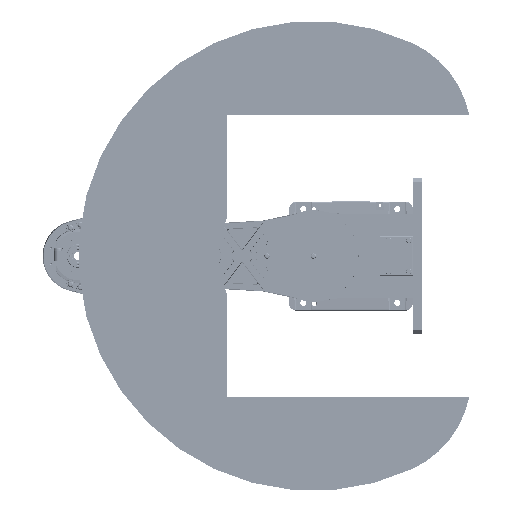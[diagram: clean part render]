
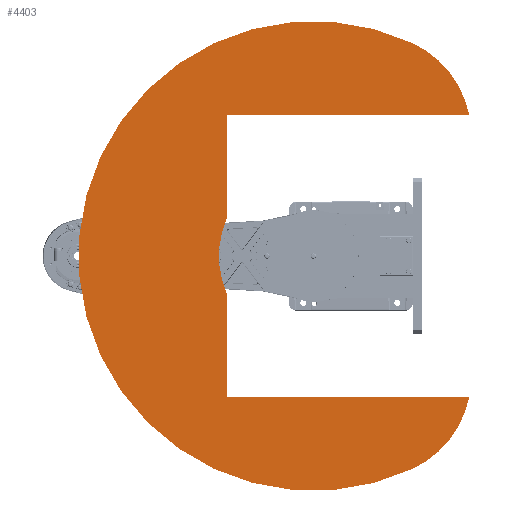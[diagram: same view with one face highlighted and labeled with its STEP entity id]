
A CAD part, front view. The second image highlights one B-rep face of the part: STEP entity #4403.
In plain terms, the highlighted planar face has unit normal (0, -1, 0).
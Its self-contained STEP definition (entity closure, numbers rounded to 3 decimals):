
#4403 = ADVANCED_FACE( '', ( #12453 ), #12454, .F. );
#12453 = FACE_OUTER_BOUND( '', #25730, .T. );
#12454 = PLANE( '', #25731 );
#25730 = EDGE_LOOP( '', ( #41317, #41318, #41319, #41320, #41321, #41322, #41323, #41324 ) );
#25731 = AXIS2_PLACEMENT_3D( '', #41325, #41326, #41327 );
#41317 = ORIENTED_EDGE( '', *, *, #73389, .T. );
#41318 = ORIENTED_EDGE( '', *, *, #73390, .F. );
#41319 = ORIENTED_EDGE( '', *, *, #73391, .F. );
#41320 = ORIENTED_EDGE( '', *, *, #73392, .F. );
#41321 = ORIENTED_EDGE( '', *, *, #73393, .T. );
#41322 = ORIENTED_EDGE( '', *, *, #73394, .T. );
#41323 = ORIENTED_EDGE( '', *, *, #73395, .T. );
#41324 = ORIENTED_EDGE( '', *, *, #73396, .T. );
#41325 = CARTESIAN_POINT( '', ( 77.036, 0., 35.923 ) );
#41326 = DIRECTION( '', ( 0., 1., 0. ) );
#41327 = DIRECTION( '', ( 0., 0., 1. ) );
#73389 = EDGE_CURVE( '', #86528, #86529, #86530, .T. );
#73390 = EDGE_CURVE( '', #86531, #86529, #86532, .T. );
#73391 = EDGE_CURVE( '', #86533, #86531, #86534, .T. );
#73392 = EDGE_CURVE( '', #86535, #86533, #86536, .T. );
#73393 = EDGE_CURVE( '', #86535, #86537, #86538, .T. );
#73394 = EDGE_CURVE( '', #86537, #86539, #86540, .T. );
#73395 = EDGE_CURVE( '', #86539, #86541, #86542, .T. );
#73396 = EDGE_CURVE( '', #86541, #86528, #86543, .T. );
#86528 = VERTEX_POINT( '', #106107 );
#86529 = VERTEX_POINT( '', #106108 );
#86530 = LINE( '', #106109, #106110 );
#86531 = VERTEX_POINT( '', #106111 );
#86532 = CIRCLE( '', #106112, 130. );
#86533 = VERTEX_POINT( '', #106113 );
#86534 = CIRCLE( '', #106114, 300. );
#86535 = VERTEX_POINT( '', #106115 );
#86536 = CIRCLE( '', #106116, 130. );
#86537 = VERTEX_POINT( '', #106117 );
#86538 = LINE( '', #106118, #106119 );
#86539 = VERTEX_POINT( '', #106120 );
#86540 = LINE( '', #106121, #106122 );
#86541 = VERTEX_POINT( '', #106123 );
#86542 = CIRCLE( '', #106124, 120.61 );
#86543 = LINE( '', #106125, #106126 );
#106107 = CARTESIAN_POINT( '', ( -180., 0., -110. ) );
#106108 = CARTESIAN_POINT( '', ( -180., 0., 199.233 ) );
#106109 = CARTESIAN_POINT( '', ( -180., 0., -110. ) );
#106110 = VECTOR( '', #136327, 1000. );
#106111 = CARTESIAN_POINT( '', ( -271.892, 0., 126.785 ) );
#106112 = AXIS2_PLACEMENT_3D( '', #136328, #136329, #136330 );
#106113 = CARTESIAN_POINT( '', ( 271.892, 0., 126.785 ) );
#106114 = AXIS2_PLACEMENT_3D( '', #136331, #136332, #136333 );
#106115 = CARTESIAN_POINT( '', ( 180., 0., 199.233 ) );
#106116 = AXIS2_PLACEMENT_3D( '', #136334, #136335, #136336 );
#106117 = CARTESIAN_POINT( '', ( 180., 0., -110. ) );
#106118 = CARTESIAN_POINT( '', ( 180., 0., 290. ) );
#106119 = VECTOR( '', #136337, 1000. );
#106120 = CARTESIAN_POINT( '', ( 49.465, 0., -110. ) );
#106121 = CARTESIAN_POINT( '', ( 180., 0., -110. ) );
#106122 = VECTOR( '', #136338, 1000. );
#106123 = CARTESIAN_POINT( '', ( -49.465, 0., -110. ) );
#106124 = AXIS2_PLACEMENT_3D( '', #136339, #136340, #136341 );
#106125 = CARTESIAN_POINT( '', ( 180., 0., -110. ) );
#106126 = VECTOR( '', #136342, 1000. );
#136327 = DIRECTION( '', ( 0., 0., 1. ) );
#136328 = CARTESIAN_POINT( '', ( -154.072, 0., 71.845 ) );
#136329 = DIRECTION( '', ( 0., 1., 0. ) );
#136330 = DIRECTION( '', ( 1., 0., 0. ) );
#136331 = CARTESIAN_POINT( '', ( 0., 0., 0. ) );
#136332 = DIRECTION( '', ( 0., 1., 0. ) );
#136333 = DIRECTION( '', ( 1., 0., 0. ) );
#136334 = CARTESIAN_POINT( '', ( 154.072, 0., 71.845 ) );
#136335 = DIRECTION( '', ( 0., 1., 0. ) );
#136336 = DIRECTION( '', ( 1., 0., 0. ) );
#136337 = DIRECTION( '', ( 0., 0., -1. ) );
#136338 = DIRECTION( '', ( -1., 0., 0. ) );
#136339 = CARTESIAN_POINT( '', ( 0., 0., 0. ) );
#136340 = DIRECTION( '', ( 0., 1., 0. ) );
#136341 = DIRECTION( '', ( 1., 0., 0. ) );
#136342 = DIRECTION( '', ( -1., 0., 0. ) );
